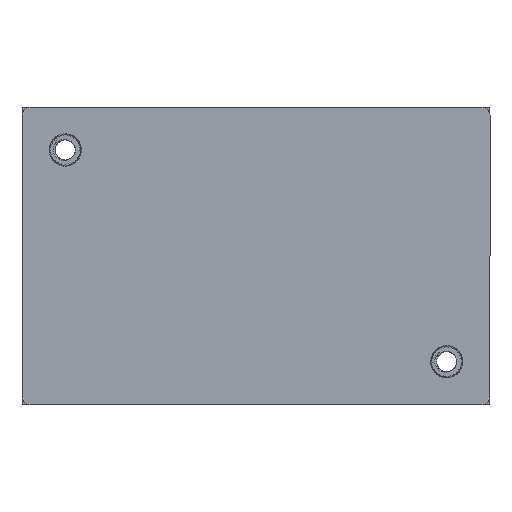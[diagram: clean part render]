
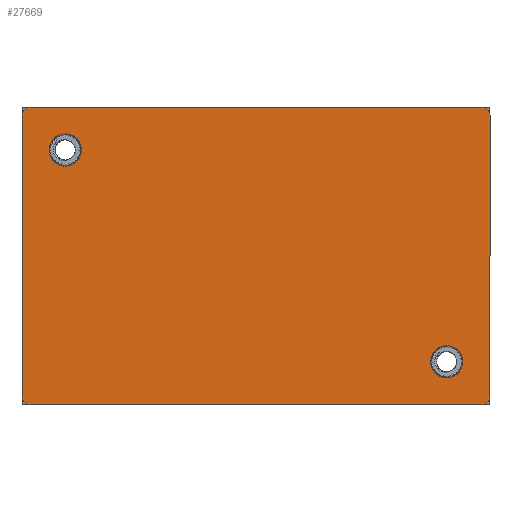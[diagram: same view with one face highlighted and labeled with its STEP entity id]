
A CAD part, front view. The second image highlights one B-rep face of the part: STEP entity #27669.
In plain terms, the highlighted planar face has unit normal (0, -1, 0).
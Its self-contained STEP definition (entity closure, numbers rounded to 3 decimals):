
#156 = VERTEX_POINT ( 'NONE', #1911 ) ;
#284 = ORIENTED_EDGE ( 'NONE', *, *, #23444, .T. ) ;
#1724 = VECTOR ( 'NONE', #11593, 1000. ) ;
#1911 = CARTESIAN_POINT ( 'NONE',  ( 27.956, -1.12, 18.41 ) ) ;
#2581 = VERTEX_POINT ( 'NONE', #8024 ) ;
#2823 = DIRECTION ( 'NONE',  ( 0., 0., 1. ) ) ;
#3546 = DIRECTION ( 'NONE',  ( 0., 0., 1. ) ) ;
#4394 = DIRECTION ( 'NONE',  ( 0., 1., 0. ) ) ;
#4978 = VERTEX_POINT ( 'NONE', #33366 ) ;
#5023 = ORIENTED_EDGE ( 'NONE', *, *, #15859, .F. ) ;
#5681 = DIRECTION ( 'NONE',  ( 0., 1., 0. ) ) ;
#6342 = DIRECTION ( 'NONE',  ( 0., 0., 1. ) ) ;
#6377 = CARTESIAN_POINT ( 'NONE',  ( -28.944, -1.12, -17.39 ) ) ;
#6727 = AXIS2_PLACEMENT_3D ( 'NONE', #28380, #4394, #31199 ) ;
#6888 = DIRECTION ( 'NONE',  ( 0., -1., 0. ) ) ;
#7086 = VERTEX_POINT ( 'NONE', #23314 ) ;
#7783 = VERTEX_POINT ( 'NONE', #13257 ) ;
#8024 = CARTESIAN_POINT ( 'NONE',  ( -27.944, -1.12, 18.41 ) ) ;
#8175 = ORIENTED_EDGE ( 'NONE', *, *, #12558, .T. ) ;
#9165 = CARTESIAN_POINT ( 'NONE',  ( -28.944, -1.12, 18.41 ) ) ;
#10181 = EDGE_CURVE ( 'NONE', #22311, #11719, #30314, .T. ) ;
#10709 = EDGE_CURVE ( 'NONE', #7086, #7086, #18519, .T. ) ;
#11153 = AXIS2_PLACEMENT_3D ( 'NONE', #11157, #5681, #16442 ) ;
#11157 = CARTESIAN_POINT ( 'NONE',  ( 23.6, -1.12, -13.075 ) ) ;
#11456 = DIRECTION ( 'NONE',  ( 0., -1., 0. ) ) ;
#11593 = DIRECTION ( 'NONE',  ( -1., 0., 0. ) ) ;
#11719 = VERTEX_POINT ( 'NONE', #14333 ) ;
#11804 = CARTESIAN_POINT ( 'NONE',  ( -28.944, -1.12, -18.39 ) ) ;
#11994 = CARTESIAN_POINT ( 'NONE',  ( -28.944, -1.12, 18.41 ) ) ;
#12440 = ORIENTED_EDGE ( 'NONE', *, *, #10181, .T. ) ;
#12528 = DIRECTION ( 'NONE',  ( 0., 0., 1. ) ) ;
#12558 = EDGE_CURVE ( 'NONE', #18671, #156, #21382, .T. ) ;
#13257 = CARTESIAN_POINT ( 'NONE',  ( 23.6, -1.12, -11.075 ) ) ;
#13423 = AXIS2_PLACEMENT_3D ( 'NONE', #26967, #11456, #2823 ) ;
#13697 = DIRECTION ( 'NONE',  ( 0., -1., 0. ) ) ;
#14245 = LINE ( 'NONE', #14591, #1724 ) ;
#14333 = CARTESIAN_POINT ( 'NONE',  ( 28.956, -1.12, -17.39 ) ) ;
#14591 = CARTESIAN_POINT ( 'NONE',  ( -28.944, -1.12, -18.39 ) ) ;
#14635 = FACE_BOUND ( 'NONE', #19506, .T. ) ;
#15120 = AXIS2_PLACEMENT_3D ( 'NONE', #20460, #6888, #12528 ) ;
#15473 = ORIENTED_EDGE ( 'NONE', *, *, #10709, .T. ) ;
#15848 = EDGE_LOOP ( 'NONE', ( #33640, #27780, #20261, #12440, #26918, #8175, #5023, #24134 ) ) ;
#15859 = EDGE_CURVE ( 'NONE', #2581, #156, #28201, .T. ) ;
#16292 = CARTESIAN_POINT ( 'NONE',  ( -27.944, -1.12, 17.41 ) ) ;
#16442 = DIRECTION ( 'NONE',  ( 0., 0., 1. ) ) ;
#16995 = EDGE_CURVE ( 'NONE', #2581, #4978, #29048, .T. ) ;
#17419 = EDGE_LOOP ( 'NONE', ( #284 ) ) ;
#17618 = DIRECTION ( 'NONE',  ( 1., 0., 0. ) ) ;
#17897 = CIRCLE ( 'NONE', #11153, 2. ) ;
#17939 = VERTEX_POINT ( 'NONE', #6377 ) ;
#18519 = CIRCLE ( 'NONE', #6727, 2. ) ;
#18671 = VERTEX_POINT ( 'NONE', #32772 ) ;
#18723 = EDGE_CURVE ( 'NONE', #17939, #4978, #28352, .T. ) ;
#19506 = EDGE_LOOP ( 'NONE', ( #15473 ) ) ;
#19612 = CIRCLE ( 'NONE', #13423, 1. ) ;
#20261 = ORIENTED_EDGE ( 'NONE', *, *, #29051, .F. ) ;
#20460 = CARTESIAN_POINT ( 'NONE',  ( 27.956, -1.12, -17.39 ) ) ;
#21382 = CIRCLE ( 'NONE', #30395, 1. ) ;
#21523 = CARTESIAN_POINT ( 'NONE',  ( 28.956, -1.12, -18.39 ) ) ;
#21957 = AXIS2_PLACEMENT_3D ( 'NONE', #9165, #30319, #6342 ) ;
#22311 = VERTEX_POINT ( 'NONE', #31475 ) ;
#22380 = FACE_BOUND ( 'NONE', #17419, .T. ) ;
#23314 = CARTESIAN_POINT ( 'NONE',  ( -23.6, -1.12, 15.125 ) ) ;
#23444 = EDGE_CURVE ( 'NONE', #7783, #7783, #17897, .T. ) ;
#24014 = VECTOR ( 'NONE', #27826, 1000. ) ;
#24022 = EDGE_CURVE ( 'NONE', #17939, #34128, #19612, .T. ) ;
#24134 = ORIENTED_EDGE ( 'NONE', *, *, #16995, .T. ) ;
#24266 = DIRECTION ( 'NONE',  ( 0., 0., 1. ) ) ;
#24337 = LINE ( 'NONE', #21523, #31093 ) ;
#25090 = AXIS2_PLACEMENT_3D ( 'NONE', #16292, #27700, #3546 ) ;
#25383 = PLANE ( 'NONE',  #21957 ) ;
#26918 = ORIENTED_EDGE ( 'NONE', *, *, #33829, .F. ) ;
#26967 = CARTESIAN_POINT ( 'NONE',  ( -27.944, -1.12, -17.39 ) ) ;
#27669 = ADVANCED_FACE ( 'NONE', ( #14635, #22380, #33317 ), #25383, .F. ) ;
#27700 = DIRECTION ( 'NONE',  ( 0., -1., 0. ) ) ;
#27780 = ORIENTED_EDGE ( 'NONE', *, *, #24022, .T. ) ;
#27826 = DIRECTION ( 'NONE',  ( 0., 0., 1. ) ) ;
#28201 = LINE ( 'NONE', #11994, #30098 ) ;
#28352 = LINE ( 'NONE', #11804, #24014 ) ;
#28376 = CARTESIAN_POINT ( 'NONE',  ( -27.944, -1.12, -18.39 ) ) ;
#28380 = CARTESIAN_POINT ( 'NONE',  ( -23.6, -1.12, 13.125 ) ) ;
#29048 = CIRCLE ( 'NONE', #25090, 1. ) ;
#29051 = EDGE_CURVE ( 'NONE', #22311, #34128, #14245, .T. ) ;
#29913 = CARTESIAN_POINT ( 'NONE',  ( 27.956, -1.12, 17.41 ) ) ;
#30098 = VECTOR ( 'NONE', #17618, 1000. ) ;
#30314 = CIRCLE ( 'NONE', #15120, 1. ) ;
#30319 = DIRECTION ( 'NONE',  ( 0., 1., 0. ) ) ;
#30395 = AXIS2_PLACEMENT_3D ( 'NONE', #29913, #13697, #24266 ) ;
#31093 = VECTOR ( 'NONE', #34733, 1000. ) ;
#31199 = DIRECTION ( 'NONE',  ( 0., 0., 1. ) ) ;
#31475 = CARTESIAN_POINT ( 'NONE',  ( 27.956, -1.12, -18.39 ) ) ;
#32772 = CARTESIAN_POINT ( 'NONE',  ( 28.956, -1.12, 17.41 ) ) ;
#33317 = FACE_OUTER_BOUND ( 'NONE', #15848, .T. ) ;
#33366 = CARTESIAN_POINT ( 'NONE',  ( -28.944, -1.12, 17.41 ) ) ;
#33640 = ORIENTED_EDGE ( 'NONE', *, *, #18723, .F. ) ;
#33829 = EDGE_CURVE ( 'NONE', #18671, #11719, #24337, .T. ) ;
#34128 = VERTEX_POINT ( 'NONE', #28376 ) ;
#34733 = DIRECTION ( 'NONE',  ( 0., 0., -1. ) ) ;
